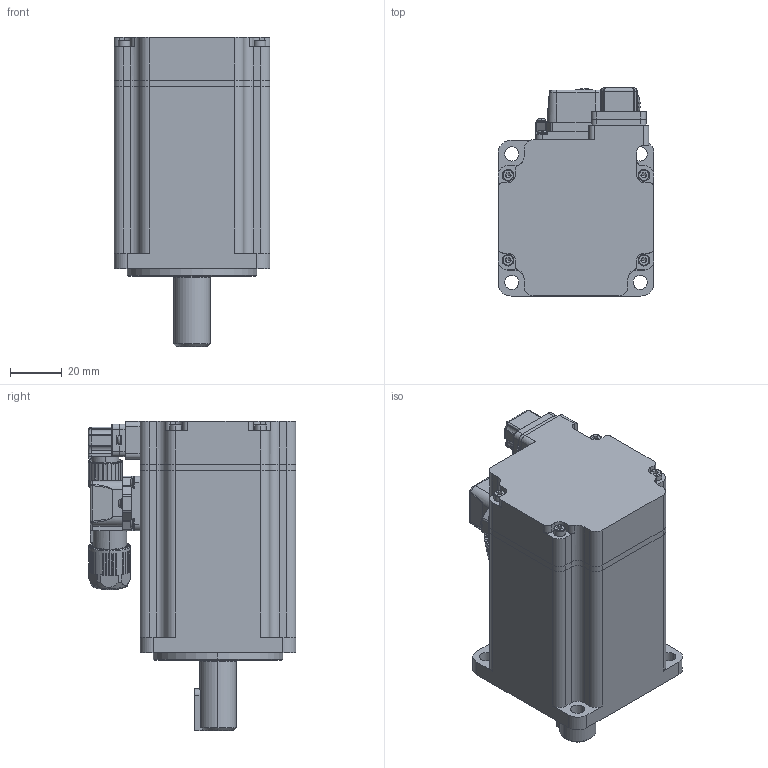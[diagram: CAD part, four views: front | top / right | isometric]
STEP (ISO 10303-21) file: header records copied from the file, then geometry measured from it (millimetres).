
FILE_DESCRIPTION (( 'STEP AP203' ), '1' );
FILE_NAME ('軞蚾.STEP', '2023-09-05T06:10:57', ( 'wuyd' ), ( '' ), 'SwSTEP 2.0', 'SolidWorks 2023', '' );
FILE_SCHEMA (( 'CONFIG_CONTROL_DESIGN' ));
Products named in the file (1): 总装
Bounding box: 60 x 80 x 119 mm (x, y, z)
Surface area: 68388.6 mm2 (no closed solid volume)
Topology: 0 solids, 54 shells, 4892 faces, 12788 edges, 8136 vertices
Faces by surface type: plane 2758, cylinder 1319, bspline 430, torus 210, cone 163, sphere 12
Entity records: 188638 total; most frequent: CARTESIAN_POINT 80370, ORIENTED_EDGE 25454, DIRECTION 17678, EDGE_CURVE 12738, VERTEX_POINT 8136, AXIS2_PLACEMENT_3D 6370, B_SPLINE_CURVE_WITH_KNOTS 5853, EDGE_LOOP 5193
